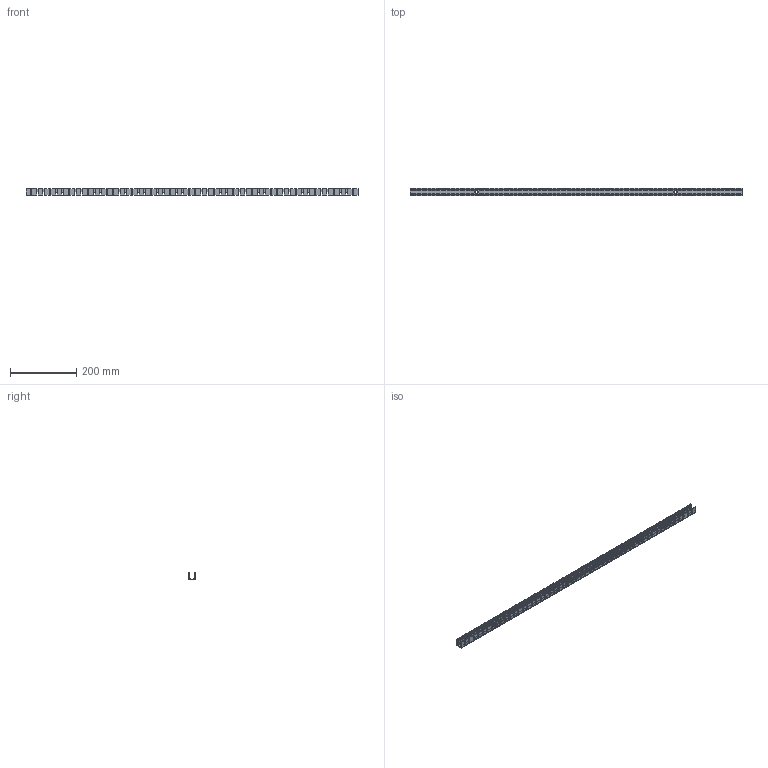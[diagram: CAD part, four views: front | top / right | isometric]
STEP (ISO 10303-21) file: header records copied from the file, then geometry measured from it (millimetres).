
FILE_DESCRIPTION(/* description */ (''),/* implementation_level */ '2;1');
FILE_NAME(/* name */ 'NF_1616_CURVED_PROFILE_TOP_BEND_L1000_R01.step',/* time_stamp */ '2026-07-24T14:38:32+02:00',/* author */ (''),/* organization */ (''),/* preprocessor_version */ 'ST-DEVELOPER v20.1',/* originating_system */ 'Autodesk Translation Framework v15.8.0.0',/* authorisation */ '');
FILE_SCHEMA (('AUTOMOTIVE_DESIGN { 1 0 10303 214 3 1 1 }'));
Products named in the file (1): 2026-07-16-14-34-53-596
Bounding box: 1000 x 22 x 20.8 mm (x, y, z)
Volume: 107097.3 mm3; surface area: 193652.2 mm2
Topology: 3 solids, 3 shells, 2759 faces, 8883 edges, 5922 vertices
Faces by surface type: plane 1837, cylinder 858, bspline 64
Entity records: 99231 total; most frequent: CARTESIAN_POINT 19113, ORIENTED_EDGE 17766, DIRECTION 16115, EDGE_CURVE 8883, LINE 6831, VECTOR 6831, VERTEX_POINT 5922, AXIS2_PLACEMENT_3D 4642
